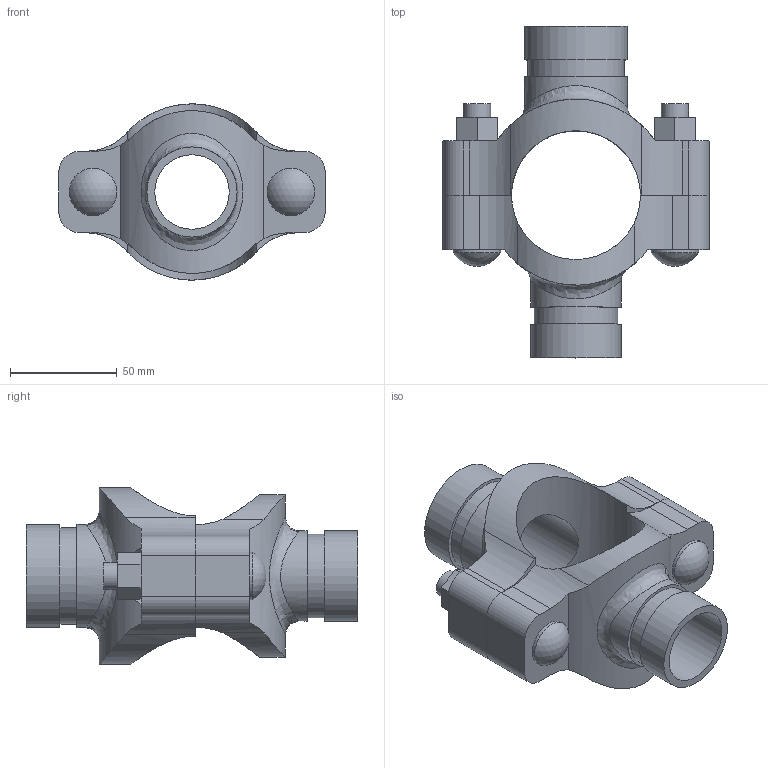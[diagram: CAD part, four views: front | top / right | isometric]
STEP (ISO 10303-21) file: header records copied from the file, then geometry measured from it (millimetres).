
FILE_DESCRIPTION(/* description */ ('VIC MECH-T BRANCH OUTLET CROSS STYLE 920N (GRVD)','CAx-IF Rec.Pracs.---Representation and Presentation of Product Manufacturing Information (PMI)---4.0---2014-10-13'),/* implementation_level */ '2;1');
FILE_NAME(/* name */ 'C:\Users\Vjadhav\AppData\Roaming\Autodesk\ApplicationPlugins\Back Up\Victaulic_IPS_Mechanical-Cross Outlet_Style 920N (OGS)\Victaulic_IPS_Mechanical-Cross Outlet_02.0x01.5x01.25 (50x40x32).stp',/* time_stamp */ '2020-08-06T19:43:04+05:00',/* author */ ('Vjadhav'),/* organization */ ('Victaulic'),/* preprocessor_version */ 'ST-DEVELOPER v17.2',/* originating_system */ 'Autodesk Inventor 2019',/* authorisation */ '');
FILE_SCHEMA (('AP242_MANAGED_MODEL_BASED_3D_ENGINEERING_MIM_LF { 1 0 10303 442 1 1 4 }'));
Length unit declared in the file: inch
Products named in the file (3): 920NG-02.0x01.5x01.25; 920NG-02.0x01.5; 920NG-02.0x01.25
Assembly tree (2 placements, depth 2):
  920NG-02.0x01.5x01.25
    920NG-02.0x01.5
    920NG-02.0x01.25
Bounding box: 124.71 x 155.45 x 82.55 mm (x, y, z)
Volume: 267644.9 mm3; surface area: 77871.5 mm2
Topology: 2 solids, 2 shells, 106 faces, 268 edges, 182 vertices
Faces by surface type: plane 54, cylinder 48, sphere 2, bspline 2
Full cylindrical faces by diameter (mm): 12.7 x4, 22.225 x2, 34.925 x1, 38.989 x1, 41.275 x1, 42.164 x2, 45.085 x1, 48.26 x2
Entity records: 4202 total; most frequent: CARTESIAN_POINT 1363, DIRECTION 550, ORIENTED_EDGE 536, EDGE_CURVE 268, AXIS2_PLACEMENT_3D 201, VERTEX_POINT 182, LINE 148, VECTOR 148
